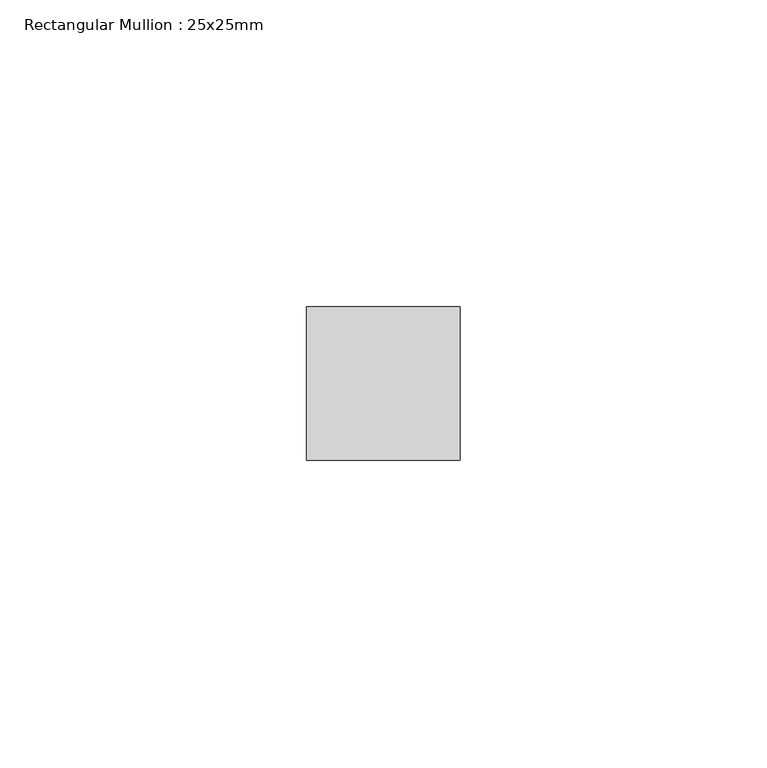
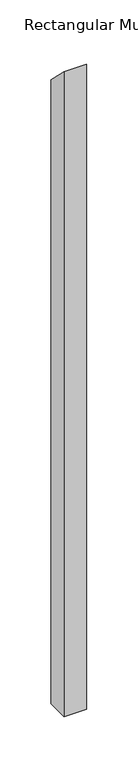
"""IFC4 building model written with IfcOpenShell, lengths in millimetres: member geometry, Rectangular Mullion : 25x25mm."""

from ifc_helpers import new_model, si_unit, frame, origin, place, context, project, spatial, polyline, outline, extrude, source, transform, mapped, element, save


def rectangular_mullion_25x25mm_c7fa3d61(model_context):
    return source(origin(), model_context, "Body", "SweptSolid", [
        extrude(outline(polyline([(-24.5, 24.5), (0.5, -0.5), (0.5, -740.0000001), (-24.5, -740.0000001), (-24.5, 24.5)])), frame((-25.0, 0.0, 0.0), z_axis=(1.0, 0.0, 0.0), x_axis=(0.0, 1.0, 0.0)), (0.0, 0.0, 1.0), 25.0),
    ])


if __name__ == "__main__":
    model = new_model("IFC4")
    model_context = context("Model", 3, world=origin())
    ifc_project = project(units=[si_unit("LENGTHUNIT", "METRE", prefix="MILLI")], contexts=[model_context])
    site = spatial("IfcSite", under=ifc_project)
    building = spatial("IfcBuilding", under=site)
    placement = place(None, origin())
    rectangular_mullion_25x25mm_shape = rectangular_mullion_25x25mm_c7fa3d61(model_context)
    element("IfcMember", 1, ObjectType="Rectangular Mullion : 25x25mm", at=placement, inside=building, context=model_context, shape_type="MappedRepresentation", body=[
        mapped(rectangular_mullion_25x25mm_shape, transform((0.0, 0.0, 0.0), x_axis=(1.0, 0.0, 0.0), y_axis=(0.0, 1.0, 0.0), z_axis=(0.0, 0.0, 1.0))),
    ])
    save(model, "model.ifc")
